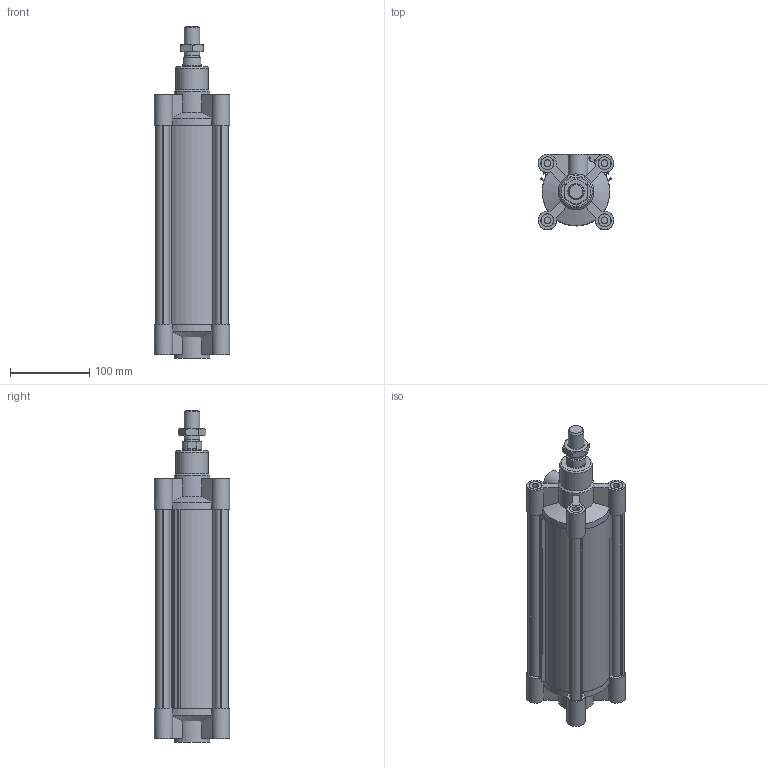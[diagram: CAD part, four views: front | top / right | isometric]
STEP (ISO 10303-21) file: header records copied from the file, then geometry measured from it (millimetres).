
FILE_DESCRIPTION((''),'2;1');
FILE_NAME('I:\Area Tecnica\Disegni\VARIE-3D\Componenti\ECOLIGHT\139#.##_0000_01\stp\139#_80_0200_01.iam.stp','2012-01-28T08:03:04',(''),(''),'Autodesk Inventor 2012','Autodesk Inventor 2012','');
FILE_SCHEMA(('AUTOMOTIVE_DESIGN { 1 0 10303 214 1 1 1 1 }'));
Length unit declared in the file: millimetre
Products named in the file (6): 139#_80_0200_01; CPL080_004-200; CPL080-001-01; CPL080-002-01; CPL_80_0200; 1320_80_18F
Assembly tree (5 placements, depth 2):
  139#_80_0200_01
    CPL080_004-200
    CPL080-001-01
    CPL080-002-01
    CPL_80_0200
    1320_80_18F
Bounding box: 95 x 95 x 418.5 mm (x, y, z)
Volume: 1199933.8 mm3; surface area: 357553.3 mm2
Topology: 5 solids, 5 shells, 264 faces, 648 edges, 426 vertices
Faces by surface type: plane 154, cylinder 83, cone 26, torus 1
Full cylindrical faces by diameter (mm): 8.5 x8, 12 x2, 15.2 x2, 16 x8, 16.5 x8, 18 x1, 18.5 x1, 20 x1, 24.5 x1, 25 x2, 41 x1, 45 x2, 80 x4
Entity records: 7874 total; most frequent: CARTESIAN_POINT 1483, DIRECTION 1288, ORIENTED_EDGE 1186, EDGE_CURVE 593, AXIS2_PLACEMENT_3D 476, VERTEX_POINT 419, EDGE_LOOP 358, VECTOR 336
